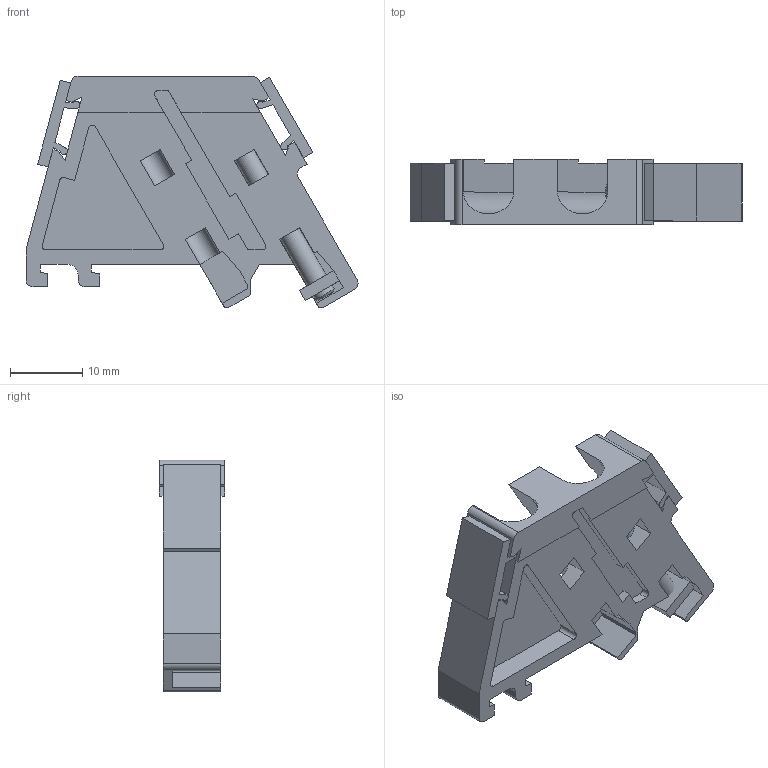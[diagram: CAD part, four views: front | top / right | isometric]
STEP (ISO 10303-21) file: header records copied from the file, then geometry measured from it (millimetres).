
FILE_DESCRIPTION( ( 'Unknown' ), '1' );
FILE_NAME( 'E:/A_work/NÁSTROJE/RS 4_Řez propojky 10x/Řez propojky 10x RSA 4A_nedoděláno_Robert Biel/Konc,svěrka L15,L35.stp', 'Unknown', ( 'Unknown' ), ( 'Unknown' ), 'PSStep 17.0.49', 'Unknown', ' ' );
FILE_SCHEMA( ( 'AUTOMOTIVE_DESIGN { 1 0 10303 214 1 1 1 1 }' ) );
Length unit declared in the file: millimetre
Products named in the file (6): Assem1; Pásek; Pásek-oa0; Těleso konc,svěrky; M3,021416; Sroub M3x22,5_konc,sverka 2009
Assembly tree (5 placements, depth 2):
  Assem1
    Pásek
    Pásek-oa0
    Těleso konc,svěrky
    M3,021416
    Sroub M3x22,5_konc,sverka 2009
Bounding box: 45.84 x 9 x 32.02 mm (x, y, z)
Volume: 5293.1 mm3; surface area: 5739.5 mm2
Topology: 5 solids, 5 shells, 238 faces, 650 edges, 418 vertices
Faces by surface type: plane 183, cylinder 49, torus 3, cone 3
Full cylindrical faces by diameter (mm): 2 x1, 3 x2, 5.4 x1
Entity records: 9429 total; most frequent: CARTESIAN_POINT 1363, ORIENTED_EDGE 1276, DIRECTION 1231, EDGE_CURVE 638, LINE 513, VECTOR 513, VERTEX_POINT 415, AXIS2_PLACEMENT_3D 359
